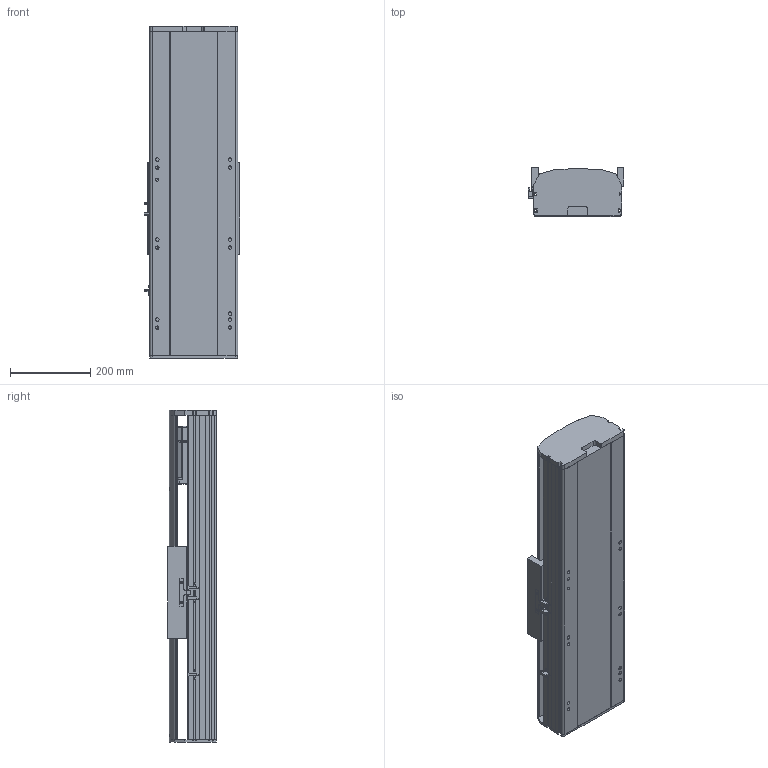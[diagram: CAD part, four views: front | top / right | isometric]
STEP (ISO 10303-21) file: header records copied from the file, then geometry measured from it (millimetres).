
FILE_DESCRIPTION (( 'STEP AP214' ), '1' );
FILE_NAME ('RTH22-XX-200-B-M75B-C4.STEP', '2025-10-24T10:05:34', ( 'Microsoft' ), ( 'Microsoft' ), 'SwSTEP 2.0', 'SolidWorks 2018', '' );
FILE_SCHEMA (( 'AUTOMOTIVE_DESIGN' ));
Length unit declared in the file: millimetre
Products named in the file (9): N_RTH22-GY-013外置感应片^RTH22-XX-XX-B-M75B-C4; N_RTH22-B-007B奻裔^RTH22-XX-XX-B-M75B-C4; N_OMRON EE-SX672 传感器^RTH22-XX-XX-B-M75B-C4; N_RTH22-B-011B菁釱^RTH22-XX-XX-B-M75B-C4; N_RTH22-GY-001耜裔^RTH22-XX-XX-B-M75B-C4; N_RTH22-B008萇儂啣^RTH22-XX-XX-B-M75B-C4; N_RTH22-E-004-SFS25賑釱^RTH22-XX-XX-B-M75B-C4; N_750W萇儂^RTH22-XX-XX-B-M75B-C4; RTH22-XX-200-B-M75B-C4
Assembly tree (10 placements, depth 2):
  RTH22-XX-200-B-M75B-C4
    N_RTH22-B-011B菁釱^RTH22-XX-XX-B-M75B-C4
    N_RTH22-GY-001耜裔^RTH22-XX-XX-B-M75B-C4
    N_750W萇儂^RTH22-XX-XX-B-M75B-C4
    N_RTH22-B008萇儂啣^RTH22-XX-XX-B-M75B-C4
    N_RTH22-B-007B奻裔^RTH22-XX-XX-B-M75B-C4
    N_OMRON EE-SX672 传感器^RTH22-XX-XX-B-M75B-C4  x3
    N_RTH22-GY-013外置感应片^RTH22-XX-XX-B-M75B-C4
    N_RTH22-E-004-SFS25賑釱^RTH22-XX-XX-B-M75B-C4
Bounding box: 238.5 x 122 x 830 mm (x, y, z)
Volume: 12612618 mm3; surface area: 1332285.3 mm2
Topology: 10 solids, 10 shells, 1461 faces, 4000 edges, 2593 vertices
Faces by surface type: plane 746, cylinder 394, bspline 279, cone 42
Entity records: 35459 total; most frequent: CARTESIAN_POINT 11253, ORIENTED_EDGE 5008, DIRECTION 4622, EDGE_CURVE 2504, VERTEX_POINT 1629, VECTOR 1578, LINE 1578, AXIS2_PLACEMENT_3D 1522
